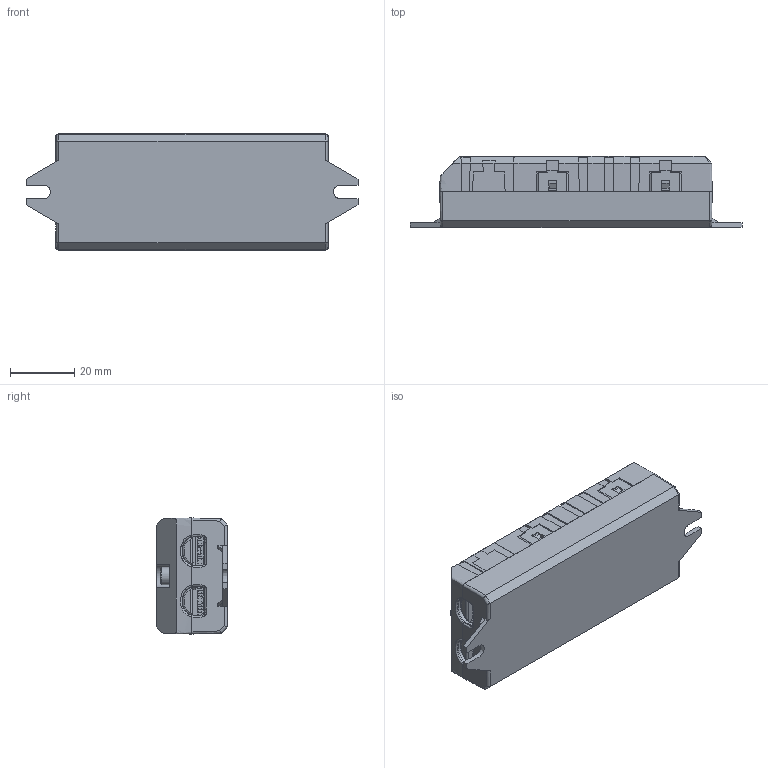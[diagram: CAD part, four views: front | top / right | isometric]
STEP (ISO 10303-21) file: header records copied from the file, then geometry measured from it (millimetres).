
FILE_DESCRIPTION(('Creo Elements/Direct Modeling STEP Export'),'2;1');
FILE_NAME('3D_B2L_Relais.stp','2021-11-16T 9:42:14',(''),(''),'PTC Creo Elements/Direct Modeling STEP processor for AP214 (Solid Model)','PTC Creo Elements/Direct Modeling 19.0E 27-Jun-2016 (C) Parametric Technology GmbH','');
FILE_SCHEMA(('AUTOMOTIVE_DESIGN { 1 0 10303 214 1 1 1 1 }'));
Length unit declared in the file: millimetre
Products named in the file (32): B2L_Zero_Plus; Skin_Group1.3; Skin_Group12; Skin_Group10; Skin_Group3; Skin_Group1.1; Skin_Group1.2; Skin_Group23; Skin_Group1; Skin_Group6; Skin_Group5; Skin_Group15; Skin_Group7; Skin_Group8; Skin_Group2; Skin_Group9; Skin_Group2.2; Skin_Group2.1; Skin_Group4; Skin_Group11; Skin_Group2.3; Lite_Line_Mini; Schraube_M3x10_DIN_7500_E; Assembly-1; KLEMME.PRT; OBJ_X2.ASM; OBJ_BOARD.PRT; T008.PRT; OBJ_X1.ASM; PART.ASM; 187236-11AA_4_.step; B2L_Relais
Assembly tree (31 placements, depth 5):
  B2L_Relais
    187236-11AA_4_.step
      PART.ASM
        OBJ_X1.ASM
          T008.PRT
        OBJ_BOARD.PRT
        OBJ_X2.ASM
          KLEMME.PRT
    Assembly-1
      Schraube_M3x10_DIN_7500_E
      Lite_Line_Mini
        Skin_Group2.3
        Skin_Group11
        Skin_Group4
        Skin_Group2.1
        Skin_Group2.2
        Skin_Group9
        Skin_Group2
        Skin_Group8
        Skin_Group7
        Skin_Group15
        Skin_Group5
        Skin_Group6
        Skin_Group1
        Skin_Group23
        Skin_Group1.2
        Skin_Group1.1
        Skin_Group3
        Skin_Group10
        Skin_Group12
        Skin_Group1.3
    B2L_Zero_Plus
Bounding box: 103 x 22 x 36 mm (x, y, z)
Volume: 11872.4 mm3; surface area: 36674.6 mm2
Topology: 7 solids, 46 shells, 1773 faces, 4768 edges, 2986 vertices
Faces by surface type: plane 1560, cylinder 98, bspline 83, cone 17, extrusion 15
Entity records: 79138 total; most frequent: CARTESIAN_POINT 21455, ORIENTED_EDGE 9279, DIRECTION 8078, EDGE_CURVE 4762, VECTOR 4210, LINE 4195, VERTEX_POINT 2986, EDGE_LOOP 1982
